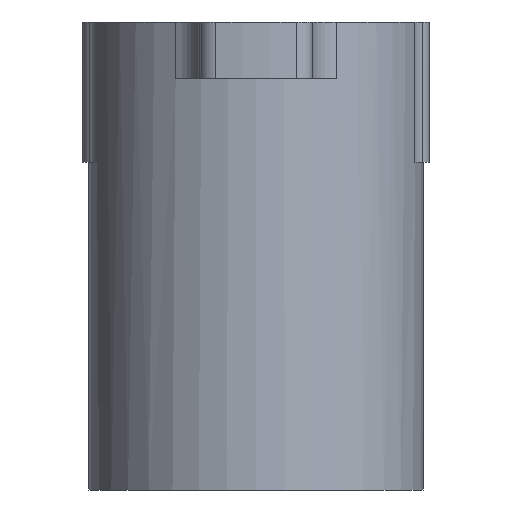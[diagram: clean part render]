
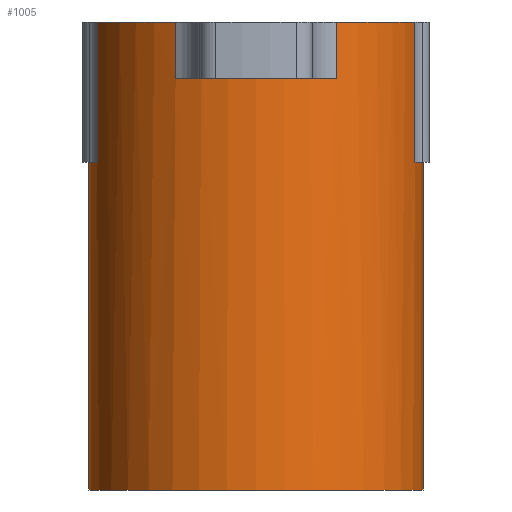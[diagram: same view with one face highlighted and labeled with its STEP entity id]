
A CAD part, left-side view. The second image highlights one B-rep face of the part: STEP entity #1005.
In plain terms, the highlighted cylindrical face has radius 17.85 mm (diameter 35.7 mm), a full revolution.
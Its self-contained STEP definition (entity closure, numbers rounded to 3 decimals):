
#77=FACE_OUTER_BOUND('',#131,.T.);
#131=EDGE_LOOP('',(#798,#799,#800,#801,#802,#803,#804,#805,#806,#807,#808,
#809,#810,#811,#812,#813,#814,#815,#816,#817));
#211=LINE('',#1804,#286);
#212=LINE('',#1807,#287);
#213=LINE('',#1813,#288);
#214=LINE('',#1816,#289);
#215=LINE('',#1818,#290);
#216=LINE('',#1821,#291);
#217=LINE('',#1823,#292);
#218=LINE('',#1827,#293);
#219=LINE('',#1831,#294);
#286=VECTOR('',#1354,2.9);
#287=VECTOR('',#1357,2.9);
#288=VECTOR('',#1366,10.);
#289=VECTOR('',#1369,10.);
#290=VECTOR('',#1370,2.9);
#291=VECTOR('',#1373,2.9);
#292=VECTOR('',#1374,10.);
#293=VECTOR('',#1377,17.85);
#294=VECTOR('',#1382,10.);
#336=CIRCLE('',#1096,17.85);
#342=CIRCLE('',#1102,17.85);
#346=CIRCLE('',#1106,17.85);
#352=CIRCLE('',#1112,17.85);
#360=CIRCLE('',#1124,17.85);
#361=CIRCLE('',#1126,17.85);
#362=CIRCLE('',#1127,17.85);
#363=CIRCLE('',#1128,17.85);
#364=CIRCLE('',#1129,17.85);
#365=CIRCLE('',#1130,17.85);
#439=VERTEX_POINT('',#1746);
#440=VERTEX_POINT('',#1748);
#447=VERTEX_POINT('',#1762);
#448=VERTEX_POINT('',#1764);
#450=VERTEX_POINT('',#1769);
#451=VERTEX_POINT('',#1771);
#458=VERTEX_POINT('',#1785);
#459=VERTEX_POINT('',#1787);
#464=VERTEX_POINT('',#1802);
#465=VERTEX_POINT('',#1806);
#466=VERTEX_POINT('',#1812);
#467=VERTEX_POINT('',#1814);
#468=VERTEX_POINT('',#1817);
#469=VERTEX_POINT('',#1819);
#470=VERTEX_POINT('',#1822);
#471=VERTEX_POINT('',#1824);
#472=VERTEX_POINT('',#1826);
#473=VERTEX_POINT('',#1829);
#560=EDGE_CURVE('',#439,#440,#336,.T.);
#568=EDGE_CURVE('',#447,#448,#342,.T.);
#572=EDGE_CURVE('',#450,#451,#346,.T.);
#580=EDGE_CURVE('',#458,#459,#352,.T.);
#589=EDGE_CURVE('',#464,#439,#211,.T.);
#590=EDGE_CURVE('',#459,#465,#212,.T.);
#592=EDGE_CURVE('',#464,#465,#360,.T.);
#593=EDGE_CURVE('',#466,#458,#213,.T.);
#594=EDGE_CURVE('',#466,#467,#361,.T.);
#595=EDGE_CURVE('',#451,#467,#214,.T.);
#596=EDGE_CURVE('',#468,#450,#215,.T.);
#597=EDGE_CURVE('',#468,#469,#362,.T.);
#598=EDGE_CURVE('',#448,#469,#216,.T.);
#599=EDGE_CURVE('',#470,#447,#217,.T.);
#600=EDGE_CURVE('',#470,#471,#363,.T.);
#601=EDGE_CURVE('',#471,#472,#218,.T.);
#602=EDGE_CURVE('',#472,#472,#364,.T.);
#603=EDGE_CURVE('',#471,#473,#365,.T.);
#604=EDGE_CURVE('',#440,#473,#219,.T.);
#798=ORIENTED_EDGE('',*,*,#592,.T.);
#799=ORIENTED_EDGE('',*,*,#590,.F.);
#800=ORIENTED_EDGE('',*,*,#580,.F.);
#801=ORIENTED_EDGE('',*,*,#593,.F.);
#802=ORIENTED_EDGE('',*,*,#594,.T.);
#803=ORIENTED_EDGE('',*,*,#595,.F.);
#804=ORIENTED_EDGE('',*,*,#572,.F.);
#805=ORIENTED_EDGE('',*,*,#596,.F.);
#806=ORIENTED_EDGE('',*,*,#597,.T.);
#807=ORIENTED_EDGE('',*,*,#598,.F.);
#808=ORIENTED_EDGE('',*,*,#568,.F.);
#809=ORIENTED_EDGE('',*,*,#599,.F.);
#810=ORIENTED_EDGE('',*,*,#600,.T.);
#811=ORIENTED_EDGE('',*,*,#601,.T.);
#812=ORIENTED_EDGE('',*,*,#602,.F.);
#813=ORIENTED_EDGE('',*,*,#601,.F.);
#814=ORIENTED_EDGE('',*,*,#603,.T.);
#815=ORIENTED_EDGE('',*,*,#604,.F.);
#816=ORIENTED_EDGE('',*,*,#560,.F.);
#817=ORIENTED_EDGE('',*,*,#589,.F.);
#965=CYLINDRICAL_SURFACE('',#1125,17.85);
#1005=ADVANCED_FACE('',(#77),#965,.T.);
#1096=AXIS2_PLACEMENT_3D('',#1749,#1298,#1299);
#1102=AXIS2_PLACEMENT_3D('',#1765,#1312,#1313);
#1106=AXIS2_PLACEMENT_3D('',#1772,#1320,#1321);
#1112=AXIS2_PLACEMENT_3D('',#1788,#1334,#1335);
#1124=AXIS2_PLACEMENT_3D('',#1810,#1362,#1363);
#1125=AXIS2_PLACEMENT_3D('',#1811,#1364,#1365);
#1126=AXIS2_PLACEMENT_3D('',#1815,#1367,#1368);
#1127=AXIS2_PLACEMENT_3D('',#1820,#1371,#1372);
#1128=AXIS2_PLACEMENT_3D('',#1825,#1375,#1376);
#1129=AXIS2_PLACEMENT_3D('',#1828,#1378,#1379);
#1130=AXIS2_PLACEMENT_3D('',#1830,#1380,#1381);
#1298=DIRECTION('center_axis',(0.,0.,1.));
#1299=DIRECTION('ref_axis',(1.,0.,0.));
#1312=DIRECTION('center_axis',(0.,0.,1.));
#1313=DIRECTION('ref_axis',(1.,0.,0.));
#1320=DIRECTION('center_axis',(0.,0.,1.));
#1321=DIRECTION('ref_axis',(1.,0.,0.));
#1334=DIRECTION('center_axis',(0.,0.,1.));
#1335=DIRECTION('ref_axis',(1.,0.,0.));
#1354=DIRECTION('',(0.,0.,1.));
#1357=DIRECTION('',(0.,0.,-1.));
#1362=DIRECTION('center_axis',(0.,0.,-1.));
#1363=DIRECTION('ref_axis',(1.,0.,0.));
#1364=DIRECTION('center_axis',(0.,0.,1.));
#1365=DIRECTION('ref_axis',(1.,0.,0.));
#1366=DIRECTION('',(0.,0.,1.));
#1367=DIRECTION('center_axis',(0.,0.,-1.));
#1368=DIRECTION('ref_axis',(1.,0.,0.));
#1369=DIRECTION('',(0.,0.,-1.));
#1370=DIRECTION('',(0.,0.,1.));
#1371=DIRECTION('center_axis',(0.,0.,-1.));
#1372=DIRECTION('ref_axis',(1.,0.,0.));
#1373=DIRECTION('',(0.,0.,-1.));
#1374=DIRECTION('',(0.,0.,1.));
#1375=DIRECTION('center_axis',(0.,0.,-1.));
#1376=DIRECTION('ref_axis',(1.,0.,0.));
#1377=DIRECTION('',(0.,0.,-1.));
#1378=DIRECTION('center_axis',(0.,0.,-1.));
#1379=DIRECTION('ref_axis',(1.,0.,0.));
#1380=DIRECTION('center_axis',(0.,0.,-1.));
#1381=DIRECTION('ref_axis',(1.,0.,0.));
#1382=DIRECTION('',(0.,0.,-1.));
#1746=CARTESIAN_POINT('',(-5.496,16.983,20.));
#1748=CARTESIAN_POINT('',(-15.646,8.593,20.));
#1749=CARTESIAN_POINT('Origin',(0.,0.,20.));
#1762=CARTESIAN_POINT('',(-15.646,-8.593,20.));
#1764=CARTESIAN_POINT('',(-5.496,-16.983,20.));
#1765=CARTESIAN_POINT('Origin',(0.,0.,20.));
#1769=CARTESIAN_POINT('',(5.496,-16.983,20.));
#1771=CARTESIAN_POINT('',(15.646,-8.593,20.));
#1772=CARTESIAN_POINT('Origin',(0.,0.,20.));
#1785=CARTESIAN_POINT('',(15.646,8.593,20.));
#1787=CARTESIAN_POINT('',(5.496,16.983,20.));
#1788=CARTESIAN_POINT('Origin',(0.,0.,20.));
#1802=CARTESIAN_POINT('',(-5.496,16.983,5.));
#1804=CARTESIAN_POINT('',(-5.496,16.983,20.));
#1806=CARTESIAN_POINT('',(5.496,16.983,5.));
#1807=CARTESIAN_POINT('',(5.496,16.983,20.));
#1810=CARTESIAN_POINT('Origin',(0.,0.,5.));
#1811=CARTESIAN_POINT('Origin',(0.,0.,0.));
#1812=CARTESIAN_POINT('',(15.646,8.593,14.));
#1813=CARTESIAN_POINT('',(15.646,8.593,0.));
#1814=CARTESIAN_POINT('',(15.646,-8.593,14.));
#1815=CARTESIAN_POINT('Origin',(0.,0.,14.));
#1816=CARTESIAN_POINT('',(15.646,-8.593,0.));
#1817=CARTESIAN_POINT('',(5.496,-16.983,5.));
#1818=CARTESIAN_POINT('',(5.496,-16.983,20.));
#1819=CARTESIAN_POINT('',(-5.496,-16.983,5.));
#1820=CARTESIAN_POINT('Origin',(0.,0.,5.));
#1821=CARTESIAN_POINT('',(-5.496,-16.983,20.));
#1822=CARTESIAN_POINT('',(-15.646,-8.593,14.));
#1823=CARTESIAN_POINT('',(-15.646,-8.593,0.));
#1824=CARTESIAN_POINT('',(-17.85,0.,14.));
#1825=CARTESIAN_POINT('Origin',(0.,0.,14.));
#1826=CARTESIAN_POINT('',(-17.85,0.,-30.));
#1827=CARTESIAN_POINT('',(-17.85,0.,0.));
#1828=CARTESIAN_POINT('Origin',(0.,0.,-30.));
#1829=CARTESIAN_POINT('',(-15.646,8.593,14.));
#1830=CARTESIAN_POINT('Origin',(0.,0.,14.));
#1831=CARTESIAN_POINT('',(-15.646,8.593,0.));
